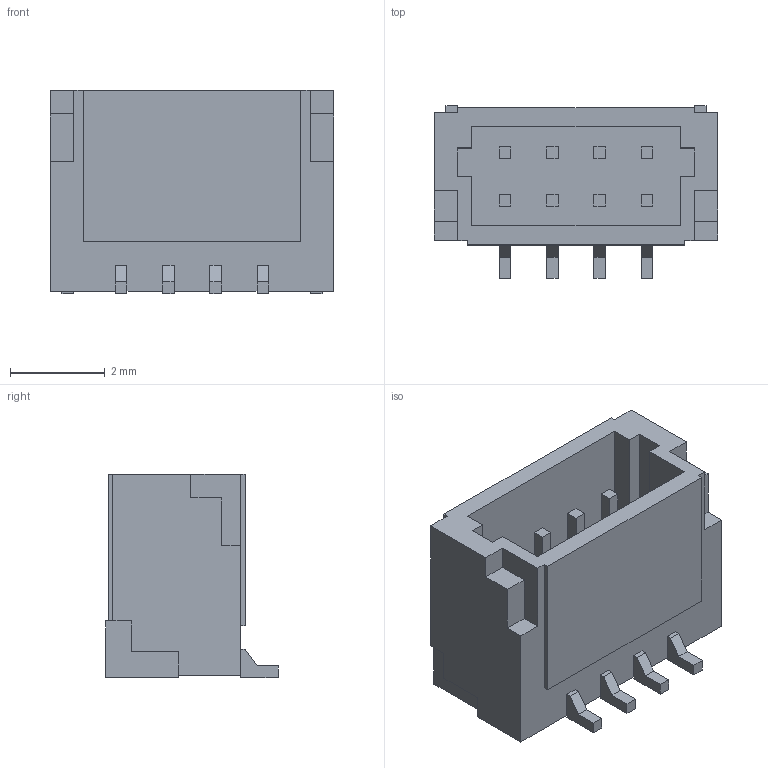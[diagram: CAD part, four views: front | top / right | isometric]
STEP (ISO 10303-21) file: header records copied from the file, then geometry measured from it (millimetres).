
FILE_DESCRIPTION(/* description */ ('STEP AP242','CAx-IF Rec.Pracs.---Representation and Presentation of Product Manufacturing Information (PMI)---4.0---2014-10-13','CAx-IF Rec.Pracs.---3D Tessellated Geometry---0.4---2014-09-14','2;1'),/* implementation_level */ '2;1');
FILE_NAME(/* name */ '62856331e05cce2481622d69',/* time_stamp */ '2022-05-18T21:20:50+00:00',/* author */ (''),/* organization */ (''),/* preprocessor_version */ 'ST-DEVELOPER v18.102',/* originating_system */ ' ',/* authorisation */ ' ');
FILE_SCHEMA (('AP242_MANAGED_MODEL_BASED_3D_ENGINEERING_MIM_LF { 1 0 10303 442 1 1 4 }'));
Length unit declared in the file: metre
Products named in the file (1): Part 1
Bounding box: 6 x 3.65 x 4.3 mm (x, y, z)
Volume: 43.3 mm3; surface area: 162.6 mm2
Topology: 1 solids, 1 shells, 131 faces, 346 edges, 226 vertices
Faces by surface type: plane 131
Entity records: 4475 total; most frequent: CARTESIAN_POINT 704, ORIENTED_EDGE 692, DIRECTION 610, EDGE_CURVE 346, LINE 346, VECTOR 346, VERTEX_POINT 226, EDGE_LOOP 140
